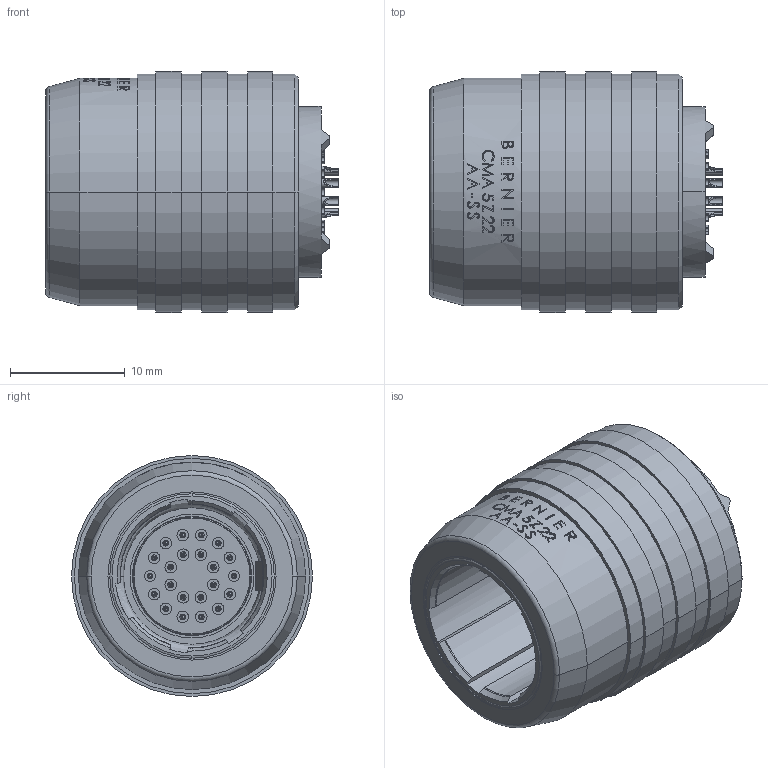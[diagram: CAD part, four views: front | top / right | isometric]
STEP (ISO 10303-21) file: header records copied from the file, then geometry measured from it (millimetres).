
FILE_DESCRIPTION (( 'STEP AP214' ), '1' );
FILE_NAME ('CMA5Z22.STEP', '2023-03-16T09:43:58', ( '' ), ( '' ), 'SwSTEP 2.0', 'SolidWorks 2021', '' );
FILE_SCHEMA (( 'AUTOMOTIVE_DESIGN' ));
Length unit declared in the file: millimetre
Products named in the file (1): CMA5Z22
Bounding box: 25.5 x 21 x 21 mm (x, y, z)
Volume: 5098 mm3; surface area: 4400.6 mm2
Topology: 1 solids, 3 shells, 1090 faces, 2538 edges, 1548 vertices
Faces by surface type: cylinder 502, plane 288, cone 110, bspline 83, torus 63, sphere 44
Entity records: 44249 total; most frequent: CARTESIAN_POINT 10754, DIRECTION 5287, ORIENTED_EDGE 4988, EDGE_CURVE 2494, AXIS2_PLACEMENT_3D 2154, VERTEX_POINT 1548, EDGE_LOOP 1228, CIRCLE 1146
